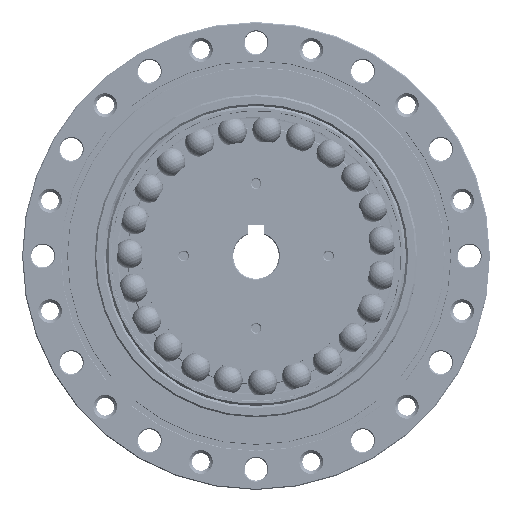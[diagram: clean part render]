
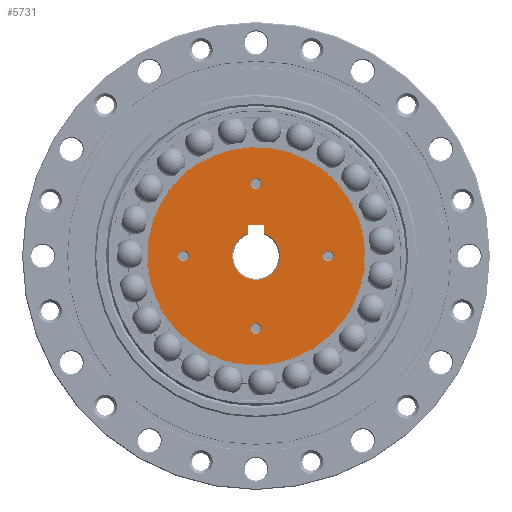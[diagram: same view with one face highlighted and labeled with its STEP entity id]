
A CAD part, top view. The second image highlights one B-rep face of the part: STEP entity #5731.
In plain terms, the highlighted planar face has unit normal (0, 0, 1).
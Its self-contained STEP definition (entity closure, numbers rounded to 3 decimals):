
#3082=LINE('',#242163,#3440);
#3083=LINE('',#242168,#3441);
#3084=LINE('',#242170,#3442);
#3440=VECTOR('',#21199,1.);
#3441=VECTOR('',#21202,1.);
#3442=VECTOR('',#21203,1.);
#4808=PLANE('',#17906);
#5731=ADVANCED_FACE('',(#7186,#7187,#7188,#7189,#7190,#7191),#4808,.F.);
#7186=FACE_BOUND('',#8775,.T.);
#7187=FACE_BOUND('',#8776,.T.);
#7188=FACE_BOUND('',#8777,.T.);
#7189=FACE_BOUND('',#8778,.T.);
#7190=FACE_BOUND('',#8779,.T.);
#7191=FACE_BOUND('',#8780,.T.);
#8775=EDGE_LOOP('',(#12315));
#8776=EDGE_LOOP('',(#12316));
#8777=EDGE_LOOP('',(#12317));
#8778=EDGE_LOOP('',(#12318));
#8779=EDGE_LOOP('',(#12319));
#8780=EDGE_LOOP('',(#12320,#12321,#12322,#12323));
#12315=ORIENTED_EDGE('',*,*,#15683,.T.);
#12316=ORIENTED_EDGE('',*,*,#15684,.T.);
#12317=ORIENTED_EDGE('',*,*,#15685,.T.);
#12318=ORIENTED_EDGE('',*,*,#15686,.T.);
#12319=ORIENTED_EDGE('',*,*,#15687,.T.);
#12320=ORIENTED_EDGE('',*,*,#15688,.F.);
#12321=ORIENTED_EDGE('',*,*,#15689,.T.);
#12322=ORIENTED_EDGE('',*,*,#15690,.F.);
#12323=ORIENTED_EDGE('',*,*,#15691,.F.);
#13881=VERTEX_POINT('',#242154);
#13882=VERTEX_POINT('',#242156);
#13883=VERTEX_POINT('',#242158);
#13884=VERTEX_POINT('',#242160);
#13885=VERTEX_POINT('',#242162);
#13886=VERTEX_POINT('',#242164);
#13887=VERTEX_POINT('',#242165);
#13888=VERTEX_POINT('',#242167);
#13889=VERTEX_POINT('',#242169);
#15683=EDGE_CURVE('',#13881,#13881,#16447,.T.);
#15684=EDGE_CURVE('',#13882,#13882,#16448,.T.);
#15685=EDGE_CURVE('',#13883,#13883,#16449,.T.);
#15686=EDGE_CURVE('',#13884,#13884,#16450,.T.);
#15687=EDGE_CURVE('',#13885,#13885,#16451,.T.);
#15688=EDGE_CURVE('',#13886,#13887,#3082,.T.);
#15689=EDGE_CURVE('',#13886,#13888,#16452,.T.);
#15690=EDGE_CURVE('',#13889,#13888,#3083,.T.);
#15691=EDGE_CURVE('',#13887,#13889,#3084,.T.);
#16447=CIRCLE('',#17900,2.6);
#16448=CIRCLE('',#17901,2.6);
#16449=CIRCLE('',#17902,2.6);
#16450=CIRCLE('',#17903,2.6);
#16451=CIRCLE('',#17904,53.);
#16452=CIRCLE('',#17905,11.5);
#17900=AXIS2_PLACEMENT_3D('',#242153,#21189,#21190);
#17901=AXIS2_PLACEMENT_3D('',#242155,#21191,#21192);
#17902=AXIS2_PLACEMENT_3D('',#242157,#21193,#21194);
#17903=AXIS2_PLACEMENT_3D('',#242159,#21195,#21196);
#17904=AXIS2_PLACEMENT_3D('',#242161,#21197,#21198);
#17905=AXIS2_PLACEMENT_3D('',#242166,#21200,#21201);
#17906=AXIS2_PLACEMENT_3D('',#242171,#21204,#21205);
#21189=DIRECTION('',(0.,0.,-1.));
#21190=DIRECTION('',(-1.,0.,0.));
#21191=DIRECTION('',(0.,0.,-1.));
#21192=DIRECTION('',(-1.,0.,0.));
#21193=DIRECTION('',(0.,0.,-1.));
#21194=DIRECTION('',(-1.,0.,0.));
#21195=DIRECTION('',(0.,0.,-1.));
#21196=DIRECTION('',(-1.,0.,0.));
#21197=DIRECTION('',(0.,0.,1.));
#21198=DIRECTION('',(-1.,0.,0.));
#21199=DIRECTION('',(0.,1.,0.));
#21200=DIRECTION('',(0.,0.,-1.));
#21201=DIRECTION('',(-1.,0.,0.));
#21202=DIRECTION('',(0.,-1.,0.));
#21203=DIRECTION('',(-1.,0.,0.));
#21204=DIRECTION('',(0.,0.,-1.));
#21205=DIRECTION('',(-1.,0.,0.));
#242153=CARTESIAN_POINT('',(0.,35.,0.));
#242154=CARTESIAN_POINT('',(-2.6,35.,0.));
#242155=CARTESIAN_POINT('',(35.,0.,0.));
#242156=CARTESIAN_POINT('',(32.4,0.,0.));
#242157=CARTESIAN_POINT('',(0.,-35.,0.));
#242158=CARTESIAN_POINT('',(-2.6,-35.,0.));
#242159=CARTESIAN_POINT('',(-35.,0.,0.));
#242160=CARTESIAN_POINT('',(-37.6,0.,0.));
#242161=CARTESIAN_POINT('',(0.,0.,0.));
#242162=CARTESIAN_POINT('',(-53.,0.,0.));
#242163=CARTESIAN_POINT('',(4.,5.014,0.));
#242164=CARTESIAN_POINT('',(4.,10.782,0.));
#242165=CARTESIAN_POINT('',(4.,15.,0.));
#242166=CARTESIAN_POINT('',(0.,0.,0.));
#242167=CARTESIAN_POINT('',(-4.,10.782,0.));
#242168=CARTESIAN_POINT('',(-4.,15.,0.));
#242169=CARTESIAN_POINT('',(-4.,15.,0.));
#242170=CARTESIAN_POINT('',(4.,15.,0.));
#242171=CARTESIAN_POINT('',(0.,0.,0.));
